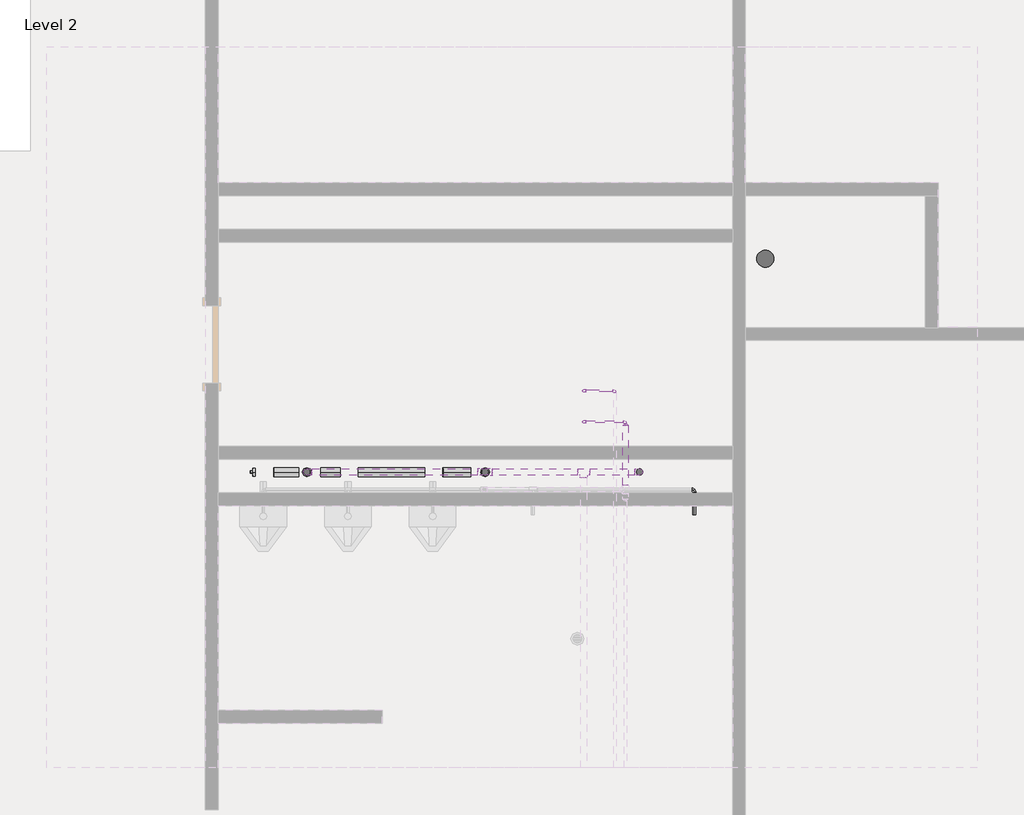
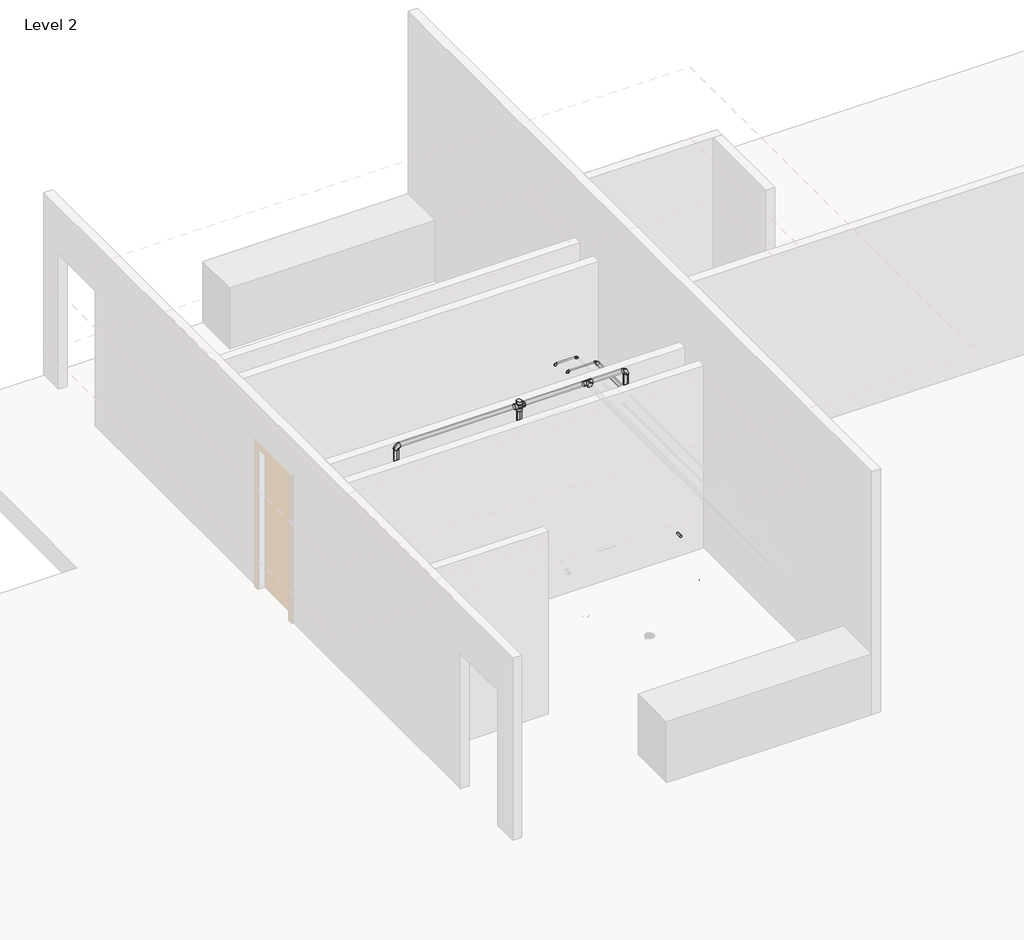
# One storey, part 5 of 5: 26 pipe segments, 19 pipe fittings.
"""IFC4 building model written with IfcOpenShell, lengths in millimetres."""

from ifc_helpers import new_model, si_unit, point, frame, frame_2d, origin, place, context, project, spatial, circle_curve, trimmed, segment, composite_curve, outline, extrude, transform, mapped, element, save
from ifc_brep_helpers import plane_surface, cylinder_surface, advanced_brep
from components import pipe_elbow_standard_a25a5501, pipe_elbow_standard_feaaf02c, pipe_glued_dwv_bend_standard_de9b6336, pipe_glued_dwv_bend_standard_2c861dc4, pipe_glued_pvc_cross_standard_87f1f047, pipe_pvc_bend_standard_a092cd9d, pipe_pvc_bend_standard_2534c646, pipe_pvc_bend_standard_a398539a, pipe_pvc_plug_standard_a2d36fc3, pipe_pvc_transition_eccentric_standard_585967aa, pipe_pvc_transition_eccentric_standard_5485b987, pipe_pvc_transition_eccentric_standard_66668254, pipe_pvc_transition_eccentric_standard_f30648cf, pipe_pvc_vent_tee_standard_361e4660, pipe_transition_eccentric_standard_2e591508

model = new_model("IFC4")

# Units and contexts
model_context = context("Model", 3, world=origin())
ifc_project = project(units=[si_unit("LENGTHUNIT", "METRE", prefix="MILLI")], contexts=[model_context])

# Site, building, storey
site = spatial("IfcSite", under=ifc_project)
building = spatial("IfcBuilding", under=site)
storey = spatial("IfcBuildingStorey", under=building, Name="Level 2", Elevation=3657.6)

# Pipe fittings
placement = place(None, origin())
pipe_elbow_standard_shape = pipe_elbow_standard_a25a5501(model_context)
element("IfcPipeFitting", 1, ObjectType="Pipe Elbow : Standard", at=placement, inside=storey, context=model_context, shape_type="MappedRepresentation", body=[
    mapped(pipe_elbow_standard_shape, transform((10036.227769, 7874.3862233, 4013.2), x_axis=(0.0, 1.0, 0.0), y_axis=(-1.0, 0.0, 0.0), z_axis=(0.0, 0.0, 1.0))),
])
pipe_elbow_standard_2_shape = pipe_elbow_standard_feaaf02c(model_context)
element("IfcPipeFitting", 2, ObjectType="Pipe Elbow : Standard", at=placement, inside=storey, context=model_context, shape_type="MappedRepresentation", body=[
    mapped(pipe_elbow_standard_2_shape, transform((8950.3157496, 8539.6099268, 6324.6), x_axis=(0.0, 0.0, 1.0), y_axis=(1.0, 0.0, 0.0), z_axis=(0.0, 1.0, 0.0))),
])
element("IfcPipeFitting", 3, ObjectType="Pipe Elbow : Standard", at=placement, inside=storey, context=model_context, shape_type="MappedRepresentation", body=[
    mapped(pipe_elbow_standard_2_shape, transform((9255.1157496, 8844.4099268, 6248.4), x_axis=(1.0, 0.0, 0.0), y_axis=(0.0, -1.0, 0.0), z_axis=(0.0, 0.0, -1.0))),
])
element("IfcPipeFitting", 4, ObjectType="Pipe Elbow : Standard", at=placement, inside=storey, context=model_context, shape_type="MappedRepresentation", body=[
    mapped(pipe_elbow_standard_2_shape, transform((8950.3157496, 8844.4099268, 6248.4), x_axis=(-1.0, 0.0, 0.0), y_axis=(0.0, 0.0, -1.0), z_axis=(0.0, -1.0, 0.0))),
])
element("IfcPipeFitting", 5, ObjectType="Pipe Elbow : Standard", at=placement, inside=storey, context=model_context, shape_type="MappedRepresentation", body=[
    mapped(pipe_elbow_standard_2_shape, transform((9358.8805711, 8539.6099268, 6324.6), x_axis=(0.0, 1.0, 0.0), y_axis=(-1.0, 0.0, 0.0), z_axis=(0.0, 0.0, 1.0))),
])
pipe_glued_dwv_bend_standard_shape = pipe_glued_dwv_bend_standard_de9b6336(model_context)
element("IfcPipeFitting", 6, ObjectType="Pipe Glued DWV Bend : Standard", at=placement, inside=storey, context=model_context, shape_type="MappedRepresentation", body=[
    mapped(pipe_glued_dwv_bend_standard_shape, transform((10732.5801632, 9758.3555835, 3279.5497723), x_axis=(0.0, 0.9999457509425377, -0.010416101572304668), y_axis=(0.0, -0.010416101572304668, -0.9999457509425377), z_axis=(-1.0, 0.0, 0.0))),
])
pipe_glued_dwv_bend_standard_2_shape = pipe_glued_dwv_bend_standard_2c861dc4(model_context)
element("IfcPipeFitting", 7, ObjectType="Pipe Glued DWV Bend : Standard", at=placement, inside=storey, context=model_context, shape_type="MappedRepresentation", body=[
    mapped(pipe_glued_dwv_bend_standard_2_shape, transform((7979.0844053, 8046.8850622, 3325.9810975), x_axis=(-0.9999440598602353, -1.7751450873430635e-05, 0.010577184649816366), y_axis=(0.01057718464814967, 1.8777087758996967e-07, 0.999944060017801), z_axis=(-1.7752443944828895e-05, 0.9999999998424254, 0.0))),
])
pipe_glued_pvc_cross_standard_shape = pipe_glued_pvc_cross_standard_87f1f047(model_context)
element("IfcPipeFitting", 8, ObjectType="Pipe Glued PVC Cross : Standard", at=placement, inside=storey, context=model_context, shape_type="MappedRepresentation", body=[
    mapped(pipe_glued_pvc_cross_standard_shape, transform((7979.0844053, 8046.8850622, 6451.6), x_axis=(0.0, 0.0, 1.0), y_axis=(1.0, 0.0, 0.0), z_axis=(0.0, 1.0, 0.0))),
])
pipe_pvc_bend_standard_shape = pipe_pvc_bend_standard_a092cd9d(model_context)
element("IfcPipeFitting", 9, ObjectType="Pipe PVC Bend : Standard", at=placement, inside=storey, context=model_context, shape_type="MappedRepresentation", body=[
    mapped(pipe_pvc_bend_standard_shape, transform((10017.1777742, 7187.059932, 3313.6539239), x_axis=(0.0, 0.0, -1.0), y_axis=(0.0, 1.0, 0.0), z_axis=(1.0, 0.0, 0.0))),
])
pipe_pvc_bend_standard_2_shape = pipe_pvc_bend_standard_2534c646(model_context)
element("IfcPipeFitting", 10, ObjectType="Pipe PVC Bend : Standard", at=placement, inside=storey, context=model_context, shape_type="MappedRepresentation", body=[
    mapped(pipe_pvc_bend_standard_2_shape, transform((6228.7865234, 8046.8850622, 6451.6), x_axis=(-0.0006499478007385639, 0.0, 0.9999997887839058), y_axis=(0.9999997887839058, 0.0, 0.0006499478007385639), z_axis=(0.0, 1.0, 0.0))),
])
pipe_pvc_bend_standard_3_shape = pipe_pvc_bend_standard_a398539a(model_context)
element("IfcPipeFitting", 11, ObjectType="Pipe PVC Bend : Standard", at=placement, inside=storey, context=model_context, shape_type="MappedRepresentation", body=[
    mapped(pipe_pvc_bend_standard_3_shape, transform((9496.6694611, 8047.4831103, 6451.6), x_axis=(-0.0006409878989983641, 0.0, 0.9999997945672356), y_axis=(-0.9999997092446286, -0.00041309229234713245, -0.0006409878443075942), z_axis=(0.00041309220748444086, -0.9999999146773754, 2.6478716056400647e-07))),
])
pipe_pvc_plug_standard_shape = pipe_pvc_plug_standard_a2d36fc3(model_context)
element("IfcPipeFitting", 12, ObjectType="Pipe PVC Plug : Standard", at=placement, inside=storey, context=model_context, shape_type="MappedRepresentation", body=[
    mapped(pipe_pvc_plug_standard_shape, transform((5696.9719248, 8046.8850622, 3982.4018472), x_axis=(-0.9999457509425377, 0.0, 0.010416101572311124), y_axis=(-0.01041554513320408, -0.01033630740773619, -0.9998923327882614), z_axis=(0.00010766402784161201, -0.999946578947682, 0.010335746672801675))),
])
pipe_pvc_transition_eccentric_standard_shape = pipe_pvc_transition_eccentric_standard_585967aa(model_context)
element("IfcPipeFitting", 13, ObjectType="Pipe PVC Transition Eccentric : Standard", at=placement, inside=storey, context=model_context, shape_type="MappedRepresentation", body=[
    mapped(pipe_pvc_transition_eccentric_standard_shape, transform((10017.1349849, 7869.4149962, 3306.5465044), x_axis=(0.00010848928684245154, -0.9999457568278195, 0.01041497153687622), y_axis=(0.010415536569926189, 0.010415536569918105, 0.999891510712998), z_axis=(-0.9999457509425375, 0.0, 0.010416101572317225))),
])
pipe_pvc_transition_eccentric_standard_2_shape = pipe_pvc_transition_eccentric_standard_5485b987(model_context)
element("IfcPipeFitting", 14, ObjectType="Pipe PVC Transition Eccentric : Standard", at=placement, inside=storey, context=model_context, shape_type="MappedRepresentation", body=[
    mapped(pipe_pvc_transition_eccentric_standard_2_shape, transform((8340.3989418, 8046.88718, 3322.2961226), x_axis=(-0.9999457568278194, 0.0001084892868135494, 0.010414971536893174), y_axis=(-0.00010849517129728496, -0.9999999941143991, 0.0), z_axis=(0.010414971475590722, -1.1299741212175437e-06, 0.9999457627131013))),
])
pipe_pvc_transition_eccentric_standard_3_shape = pipe_pvc_transition_eccentric_standard_66668254(model_context)
element("IfcPipeFitting", 15, ObjectType="Pipe PVC Transition Eccentric : Standard", at=placement, inside=storey, context=model_context, shape_type="MappedRepresentation", body=[
    mapped(pipe_pvc_transition_eccentric_standard_3_shape, transform((7979.0844053, 8046.8850622, 4040.088436), x_axis=(0.0, 0.0, 1.0), y_axis=(0.0, 1.0, 0.0), z_axis=(-1.0, 0.0, 0.0))),
])
element("IfcPipeFitting", 16, ObjectType="Pipe PVC Transition Eccentric : Standard", at=placement, inside=storey, context=model_context, shape_type="MappedRepresentation", body=[
    mapped(pipe_pvc_transition_eccentric_standard_3_shape, transform((6228.8164648, 8046.8850622, 4115.9193809), x_axis=(0.0, 0.0, 1.0), y_axis=(1.0, 0.0, 0.0), z_axis=(0.0, 1.0, 0.0))),
])
pipe_pvc_transition_eccentric_standard_4_shape = pipe_pvc_transition_eccentric_standard_f30648cf(model_context)
element("IfcPipeFitting", 17, ObjectType="Pipe PVC Transition Eccentric : Standard", at=placement, inside=storey, context=model_context, shape_type="MappedRepresentation", body=[
    mapped(pipe_pvc_transition_eccentric_standard_4_shape, transform((9498.4873347, 8046.887869, 3487.5925371), x_axis=(0.0, 0.0, 1.0), y_axis=(1.0, 0.0, 0.0), z_axis=(0.0, 1.0, 0.0))),
])
pipe_pvc_vent_tee_standard_shape = pipe_pvc_vent_tee_standard_361e4660(model_context)
element("IfcPipeFitting", 18, ObjectType="Pipe PVC Vent Tee : Standard", at=placement, inside=storey, context=model_context, shape_type="MappedRepresentation", body=[
    mapped(pipe_pvc_vent_tee_standard_shape, transform((8950.2947657, 8047.2574071, 6451.6), x_axis=(0.9999999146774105, 0.00041309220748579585, 0.0), y_axis=(-0.0004130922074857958, 0.9999999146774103, 0.0), z_axis=(0.0, 0.0, 0.9999999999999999))),
])
pipe_transition_eccentric_standard_shape = pipe_transition_eccentric_standard_2e591508(model_context)
element("IfcPipeFitting", 19, ObjectType="Pipe Transition Eccentric : Standard", at=placement, inside=storey, context=model_context, shape_type="MappedRepresentation", body=[
    mapped(pipe_transition_eccentric_standard_shape, transform((9358.8805711, 8505.4786768, 6324.6), x_axis=(0.0, 1.0, 0.0), y_axis=(-1.0, 0.0, 0.0), z_axis=(0.0, 0.0, 1.0))),
])

# Pipe segments
element("IfcPipeSegment", 20, ObjectType="Cold Water", at=placement, inside=storey, context=model_context, shape_type="SweptSolid", body=[
    extrude(outline(composite_curve([segment(trimmed(circle_curve(frame_2d((4013.2, 10036.227769)), 14.2875), [point((4013.2, 10050.515269))], [point((4027.4875, 10036.227769))], False, "CARTESIAN"), True, "CONTINUOUS"), segment(trimmed(circle_curve(frame_2d((4013.2, 10036.227769)), 14.2875), [point((4027.4875, 10036.227769))], [point((4013.2, 10021.940269))], False, "CARTESIAN"), True, "CONTINUOUS"), segment(trimmed(circle_curve(frame_2d((4013.2, 10036.227769)), 14.2875), [point((4013.2, 10021.940269))], [point((3998.9125, 10036.227769))], False, "CARTESIAN"), True, "CONTINUOUS"), segment(trimmed(circle_curve(frame_2d((4013.2, 10036.227769)), 14.2875), [point((3998.9125, 10036.227769))], [point((4013.2, 10050.515269))], False, "CARTESIAN"), True, "CONTINUOUS")], self_intersect=False)), frame((0.0, 7625.2099268, 0.0), z_axis=(0.0, 1.0, 0.0), x_axis=(0.0, 0.0, 1.0)), (0.0, 0.0, 1.0), 225.3637965),
])
element("IfcPipeSegment", 21, ObjectType="Cold Water", at=placement, inside=storey, context=model_context, shape_type="SweptSolid", body=[
    extrude(outline(composite_curve([segment(trimmed(circle_curve(frame_2d((8539.6099268, 6324.6)), 11.1125), [point((8528.4974268, 6324.6))], [point((8539.6099268, 6335.7125))], False, "CARTESIAN"), True, "CONTINUOUS"), segment(trimmed(circle_curve(frame_2d((8539.6099268, 6324.6)), 11.1125), [point((8539.6099268, 6335.7125))], [point((8550.7224268, 6324.6))], False, "CARTESIAN"), True, "CONTINUOUS"), segment(trimmed(circle_curve(frame_2d((8539.6099268, 6324.6)), 11.1125), [point((8550.7224268, 6324.6))], [point((8539.6099268, 6313.4875))], False, "CARTESIAN"), True, "CONTINUOUS"), segment(trimmed(circle_curve(frame_2d((8539.6099268, 6324.6)), 11.1125), [point((8539.6099268, 6313.4875))], [point((8528.4974268, 6324.6))], False, "CARTESIAN"), True, "CONTINUOUS")], self_intersect=False)), frame((8970.9532496, 0.0, 0.0), z_axis=(1.0, 0.0, 0.0), x_axis=(0.0, 1.0, 0.0)), (0.0, 0.0, 1.0), 367.2898215),
])
element("IfcPipeSegment", 22, ObjectType="Cold Water", at=placement, inside=storey, context=model_context, shape_type="SweptSolid", body=[
    extrude(outline(composite_curve([segment(trimmed(circle_curve(frame_2d((6324.6, 9358.8805711)), 26.9875), [point((6324.6, 9385.8680711))], [point((6351.5875, 9358.8805711))], False, "CARTESIAN"), True, "CONTINUOUS"), segment(trimmed(circle_curve(frame_2d((6324.6, 9358.8805711)), 26.9875), [point((6351.5875, 9358.8805711))], [point((6324.6, 9331.8930711))], False, "CARTESIAN"), True, "CONTINUOUS"), segment(trimmed(circle_curve(frame_2d((6324.6, 9358.8805711)), 26.9875), [point((6324.6, 9331.8930711))], [point((6297.6125, 9358.8805711))], False, "CARTESIAN"), True, "CONTINUOUS"), segment(trimmed(circle_curve(frame_2d((6324.6, 9358.8805711)), 26.9875), [point((6297.6125, 9358.8805711))], [point((6324.6, 9385.8680711))], False, "CARTESIAN"), True, "CONTINUOUS")], self_intersect=False)), frame((0.0, 7917.2487233, 0.0), z_axis=(0.0, 1.0, 0.0), x_axis=(0.0, 0.0, 1.0)), (0.0, 0.0, 1.0), 588.2299535),
])
element("IfcPipeSegment", 23, ObjectType="Hot Water", at=placement, inside=storey, context=model_context, shape_type="SweptSolid", body=[
    extrude(outline(composite_curve([segment(trimmed(circle_curve(frame_2d((8844.4099268, 6248.4)), 11.1125), [point((8833.2974268, 6248.4))], [point((8844.4099268, 6259.5125))], False, "CARTESIAN"), True, "CONTINUOUS"), segment(trimmed(circle_curve(frame_2d((8844.4099268, 6248.4)), 11.1125), [point((8844.4099268, 6259.5125))], [point((8855.5224268, 6248.4))], False, "CARTESIAN"), True, "CONTINUOUS"), segment(trimmed(circle_curve(frame_2d((8844.4099268, 6248.4)), 11.1125), [point((8855.5224268, 6248.4))], [point((8844.4099268, 6237.2875))], False, "CARTESIAN"), True, "CONTINUOUS"), segment(trimmed(circle_curve(frame_2d((8844.4099268, 6248.4)), 11.1125), [point((8844.4099268, 6237.2875))], [point((8833.2974268, 6248.4))], False, "CARTESIAN"), True, "CONTINUOUS")], self_intersect=False)), frame((8970.9532496, 0.0, 0.0), z_axis=(1.0, 0.0, 0.0), x_axis=(0.0, 1.0, 0.0)), (0.0, 0.0, 1.0), 263.525),
])
element("IfcPipeSegment", 24, ObjectType="PVC Sanitary", at=placement, inside=storey, context=model_context, shape_type="SweptSolid", body=[
    extrude(outline(composite_curve([segment(trimmed(circle_curve(frame_2d((10732.5801632, 10142.2824431)), 84.1375), [point((10816.7176632, 10142.2824431))], [point((10732.5801632, 10058.1449431))], False, "CARTESIAN"), True, "CONTINUOUS"), segment(trimmed(circle_curve(frame_2d((10732.5801632, 10142.2824431)), 84.1375), [point((10732.5801632, 10058.1449431))], [point((10648.4426632, 10142.2824431))], False, "CARTESIAN"), True, "CONTINUOUS"), segment(trimmed(circle_curve(frame_2d((10732.5801632, 10142.2824431)), 84.1375), [point((10648.4426632, 10142.2824431))], [point((10732.5801632, 10226.4199431))], False, "CARTESIAN"), True, "CONTINUOUS"), segment(trimmed(circle_curve(frame_2d((10732.5801632, 10142.2824431)), 84.1375), [point((10732.5801632, 10226.4199431))], [point((10816.7176632, 10142.2824431))], False, "CARTESIAN"), True, "CONTINUOUS")], self_intersect=False)), frame((0.0, 0.0, -457.1770873), z_axis=(0.0, 0.0, 1.0), x_axis=(1.0, 0.0, 0.0)), (0.0, 0.0, 1.0), 3251.2),
])
element("IfcPipeSegment", 25, ObjectType="PVC Sanitary", at=placement, inside=storey, context=model_context, shape_type="SweptSolid", body=[
    extrude(outline(composite_curve([segment(trimmed(circle_curve(frame_2d((0.0, 44.4500001)), 44.45), [point((-44.45, 44.4500001))], [point((0.0, 88.9))], False, "CARTESIAN"), True, "CONTINUOUS"), segment(trimmed(circle_curve(frame_2d((0.0, 44.4500001)), 44.45), [point((0.0, 88.9))], [point((44.45, 44.4500001))], False, "CARTESIAN"), True, "CONTINUOUS"), segment(trimmed(circle_curve(frame_2d((0.0, 44.4500001)), 44.45), [point((44.45, 44.4500001))], [point((0.0, 0.0))], False, "CARTESIAN"), True, "CONTINUOUS"), segment(trimmed(circle_curve(frame_2d((0.0, 44.4500001)), 44.45), [point((0.0, 0.0))], [point((-44.45, 44.4500001))], False, "CARTESIAN"), True, "CONTINUOUS")], self_intersect=False)), frame((10017.1216718, 7814.1862214, 3262.6695313), z_axis=(0.0, -0.9999457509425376, 0.010416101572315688), x_axis=(1.0, 0.0, 0.0)), (0.0, 0.0, 1.0), 567.9234396),
])
element("IfcPipeSegment", 26, ObjectType="PVC Sanitary", at=placement, inside=storey, context=model_context, shape_type="SweptSolid", body=[
    extrude(outline(composite_curve([segment(trimmed(circle_curve(frame_2d((0.0, -44.45)), 44.45), [point((-44.45, -44.45))], [point((0.0, 0.0))], False, "CARTESIAN"), True, "CONTINUOUS"), segment(trimmed(circle_curve(frame_2d((0.0, -44.45)), 44.45), [point((0.0, 0.0))], [point((44.45, -44.45))], False, "CARTESIAN"), True, "CONTINUOUS"), segment(trimmed(circle_curve(frame_2d((0.0, -44.45)), 44.45), [point((44.45, -44.45))], [point((0.0, -88.9))], False, "CARTESIAN"), True, "CONTINUOUS"), segment(trimmed(circle_curve(frame_2d((0.0, -44.45)), 44.45), [point((0.0, -88.9))], [point((-44.45, -44.45))], False, "CARTESIAN"), True, "CONTINUOUS")], self_intersect=False)), frame((10017.1777742, 7142.609932, 3373.3538105), z_axis=(-1.835869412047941e-08, -1.835862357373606e-08, 0.9999999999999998), x_axis=(-0.9999999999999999, 0.0, -1.8358694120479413e-08)), (0.0, 0.0, 1.0), 284.2461887),
])
element("IfcPipeSegment", 27, ObjectType="PVC Sanitary", at=placement, inside=storey, context=model_context, shape_type="SweptSolid", body=[
    extrude(outline(composite_curve([segment(trimmed(circle_curve(frame_2d((0.0, -57.15)), 57.15), [point((0.0, -114.3))], [point((-57.1499999, -57.15))], False, "CARTESIAN"), True, "CONTINUOUS"), segment(trimmed(circle_curve(frame_2d((0.0, -57.15)), 57.15), [point((-57.1499999, -57.15))], [point((0.0, 0.0))], False, "CARTESIAN"), True, "CONTINUOUS"), segment(trimmed(circle_curve(frame_2d((0.0, -57.15)), 57.15), [point((0.0, 0.0))], [point((57.15, -57.15))], False, "CARTESIAN"), True, "CONTINUOUS"), segment(trimmed(circle_curve(frame_2d((0.0, -57.15)), 57.15), [point((57.15, -57.15))], [point((0.0, -114.3))], False, "CARTESIAN"), True, "CONTINUOUS")], self_intersect=False)), frame((10555.1072904, 8104.03718, 3299.2262439), z_axis=(-0.9999457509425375, 0.0, 0.010416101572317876), x_axis=(0.010416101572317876, 0.0, 0.9999457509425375)), (0.0, 0.0, 1.0), 360.5368695),
])
element("IfcPipeSegment", 28, ObjectType="PVC Sanitary", at=placement, inside=storey, context=model_context, shape_type="SweptSolid", body=[
    extrude(outline(composite_curve([segment(trimmed(circle_curve(frame_2d((0.0, 57.15)), 57.15), [point((0.0, 114.3))], [point((57.15, 57.15))], False, "CARTESIAN"), True, "CONTINUOUS"), segment(trimmed(circle_curve(frame_2d((0.0, 57.15)), 57.15), [point((57.15, 57.15))], [point((0.0, 0.0))], False, "CARTESIAN"), True, "CONTINUOUS"), segment(trimmed(circle_curve(frame_2d((0.0, 57.15)), 57.15), [point((0.0, 0.0))], [point((-57.15, 57.15))], False, "CARTESIAN"), True, "CONTINUOUS"), segment(trimmed(circle_curve(frame_2d((0.0, 57.15)), 57.15), [point((-57.15, 57.15))], [point((0.0, 114.3))], False, "CARTESIAN"), True, "CONTINUOUS")], self_intersect=False)), frame((8797.5989366, 7989.73718, 3317.5336226), z_axis=(-0.9999457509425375, 0.0, 0.010416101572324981), x_axis=(0.010416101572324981, 0.0, 0.9999457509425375)), (0.0, 0.0, 1.0), 190.524804),
])
element("IfcPipeSegment", 29, ObjectType="PVC Sanitary", at=placement, inside=storey, context=model_context, shape_type="SweptSolid", body=[
    extrude(outline(composite_curve([segment(trimmed(circle_curve(frame_2d((0.0, 44.4500001)), 44.45), [point((-0.2061639, 88.8995219))], [point((44.4495218, 44.6561639))], False, "CARTESIAN"), True, "CONTINUOUS"), segment(trimmed(circle_curve(frame_2d((0.0, 44.4500001)), 44.45), [point((44.4495218, 44.6561639))], [point((0.2061638, 0.0004781))], False, "CARTESIAN"), True, "CONTINUOUS"), segment(trimmed(circle_curve(frame_2d((0.0, 44.4500001)), 44.45), [point((0.2061638, 0.0004781))], [point((-44.4495219, 44.2438361))], False, "CARTESIAN"), True, "CONTINUOUS"), segment(trimmed(circle_curve(frame_2d((0.0, 44.4500001)), 44.45), [point((-44.4495219, 44.2438361))], [point((-0.2061639, 88.8995219))], False, "CARTESIAN"), True, "CONTINUOUS")], self_intersect=False)), frame((8285.6331627, 8002.4435999, 3322.6603853), z_axis=(-0.9999436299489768, -4.924355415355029e-05, 0.010617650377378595), x_axis=(0.010617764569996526, -0.004637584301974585, 0.9999328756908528)), (0.0, 0.0, 1.0), 105.0015081),
])
element("IfcPipeSegment", 30, ObjectType="PVC Sanitary", at=placement, inside=storey, context=model_context, shape_type="SweptSolid", body=[
    extrude(outline(composite_curve([segment(trimmed(circle_curve(frame_2d((0.0, 57.15)), 57.15), [point((0.0, 114.3))], [point((57.15, 57.15))], False, "CARTESIAN"), True, "CONTINUOUS"), segment(trimmed(circle_curve(frame_2d((0.0, 57.15)), 57.15), [point((57.15, 57.15))], [point((0.0, 0.0))], False, "CARTESIAN"), True, "CONTINUOUS"), segment(trimmed(circle_curve(frame_2d((0.0, 57.15)), 57.15), [point((0.0, 0.0))], [point((-57.1499999, 57.15))], False, "CARTESIAN"), True, "CONTINUOUS"), segment(trimmed(circle_curve(frame_2d((0.0, 57.15)), 57.15), [point((-57.1499999, 57.15))], [point((0.0, 114.3))], False, "CARTESIAN"), True, "CONTINUOUS")], self_intersect=False)), frame((9407.4273768, 7989.73718, 3311.181243), z_axis=(-0.9999457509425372, 0.0, 0.010416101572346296), x_axis=(0.010416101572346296, 0.0, 0.9999457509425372)), (0.0, 0.0, 1.0), 343.1615246),
])
element("IfcPipeSegment", 31, ObjectType="PVC Sanitary", at=placement, inside=storey, context=model_context, shape_type="SweptSolid", body=[
    extrude(outline(composite_curve([segment(trimmed(circle_curve(frame_2d((0.0, -57.15)), 57.15), [point((57.15, -57.15))], [point((0.0, -114.3000001))], False, "CARTESIAN"), True, "CONTINUOUS"), segment(trimmed(circle_curve(frame_2d((0.0, -57.15)), 57.15), [point((0.0, -114.3000001))], [point((-57.15, -57.15))], False, "CARTESIAN"), True, "CONTINUOUS"), segment(trimmed(circle_curve(frame_2d((0.0, -57.15)), 57.15), [point((-57.15, -57.15))], [point((0.0, 0.0))], False, "CARTESIAN"), True, "CONTINUOUS"), segment(trimmed(circle_curve(frame_2d((0.0, -57.15)), 57.15), [point((0.0, 0.0))], [point((57.15, -57.15))], False, "CARTESIAN"), True, "CONTINUOUS")], self_intersect=False)), frame((10732.5801632, 9623.0563456, 3338.1122399), z_axis=(0.0, -0.9999457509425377, 0.010416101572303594), x_axis=(1.0, 0.0, 0.0)), (0.0, 0.0, 1.0), 1398.1961194),
])
element("IfcPipeSegment", 32, ObjectType="PVC Sanitary", at=placement, inside=storey, context=model_context, shape_type="SweptSolid", body=[
    extrude(outline(composite_curve([segment(trimmed(circle_curve(frame_2d((0.0, -57.15)), 57.15), [point((57.15, -57.15))], [point((0.0, -114.3))], False, "CARTESIAN"), True, "CONTINUOUS"), segment(trimmed(circle_curve(frame_2d((0.0, -57.15)), 57.15), [point((0.0, -114.3))], [point((-57.15, -57.15))], False, "CARTESIAN"), True, "CONTINUOUS"), segment(trimmed(circle_curve(frame_2d((0.0, -57.15)), 57.15), [point((-57.15, -57.15))], [point((0.0, 0.0))], False, "CARTESIAN"), True, "CONTINUOUS"), segment(trimmed(circle_curve(frame_2d((0.0, -57.15)), 57.15), [point((0.0, 0.0))], [point((57.15, -57.15))], False, "CARTESIAN"), True, "CONTINUOUS")], self_intersect=False)), frame((10732.5801632, 10008.7011333, 3110.0265276), z_axis=(0.0, -0.7071067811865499, 0.7071067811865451), x_axis=(1.0, 0.0, 0.0)), (0.0, 0.0, 1.0), 160.9901811),
])
element("IfcPipeSegment", 33, ObjectType="PVC Sanitary", at=placement, inside=storey, context=model_context, shape_type="SweptSolid", body=[
    extrude(outline(composite_curve([segment(trimmed(circle_curve(frame_2d((10732.5801632, 10142.2824431)), 84.1375), [point((10648.4426632, 10142.2824431))], [point((10732.5801632, 10226.4199431))], False, "CARTESIAN"), True, "CONTINUOUS"), segment(trimmed(circle_curve(frame_2d((10732.5801632, 10142.2824431)), 84.1375), [point((10732.5801632, 10226.4199431))], [point((10816.7176632, 10142.2824431))], False, "CARTESIAN"), True, "CONTINUOUS"), segment(trimmed(circle_curve(frame_2d((10732.5801632, 10142.2824431)), 84.1375), [point((10816.7176632, 10142.2824431))], [point((10732.5801632, 10058.1449431))], False, "CARTESIAN"), True, "CONTINUOUS"), segment(trimmed(circle_curve(frame_2d((10732.5801632, 10142.2824431)), 84.1375), [point((10732.5801632, 10058.1449431))], [point((10648.4426632, 10142.2824431))], False, "CARTESIAN"), True, "CONTINUOUS")], self_intersect=False)), frame((0.0, 0.0, 3175.0229127), z_axis=(0.0, 0.0, 1.0), x_axis=(1.0, 0.0, 0.0)), (0.0, 0.0, 1.0), 1701.7770873),
])
element("IfcPipeSegment", 34, ObjectType="PVC Sanitary", at=placement, inside=storey, context=model_context, shape_type="SweptSolid", body=[
    extrude(outline(composite_curve([segment(trimmed(circle_curve(frame_2d((0.0, -44.45)), 44.45), [point((0.0, -88.9))], [point((-44.45, -44.45))], False, "CARTESIAN"), True, "CONTINUOUS"), segment(trimmed(circle_curve(frame_2d((0.0, -44.45)), 44.45), [point((-44.45, -44.45))], [point((0.0, 0.0))], False, "CARTESIAN"), True, "CONTINUOUS"), segment(trimmed(circle_curve(frame_2d((0.0, -44.45)), 44.45), [point((0.0, 0.0))], [point((44.4500001, -44.45))], False, "CARTESIAN"), True, "CONTINUOUS"), segment(trimmed(circle_curve(frame_2d((0.0, -44.45)), 44.45), [point((44.4500001, -44.45))], [point((0.0, -88.9))], False, "CARTESIAN"), True, "CONTINUOUS")], self_intersect=False)), frame((6554.7441082, 8091.3350622, 3973.4667203), z_axis=(-0.9999465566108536, 0.0, 0.010338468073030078), x_axis=(0.010338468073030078, 0.0, 0.9999465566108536)), (0.0, 0.0, 1.0), 188.2957485),
])
element("IfcPipeSegment", 35, ObjectType="PVC Sanitary", at=placement, inside=storey, context=model_context, shape_type="SweptSolid", body=[
    extrude(outline(composite_curve([segment(trimmed(circle_curve(frame_2d((7979.0844053, 8046.8850622)), 44.45), [point((7934.6344053, 8046.8850622))], [point((7979.0844053, 8091.3350622))], False, "CARTESIAN"), True, "CONTINUOUS"), segment(trimmed(circle_curve(frame_2d((7979.0844053, 8046.8850622)), 44.45), [point((7979.0844053, 8091.3350622))], [point((8023.5344053, 8046.8850622))], False, "CARTESIAN"), True, "CONTINUOUS"), segment(trimmed(circle_curve(frame_2d((7979.0844053, 8046.8850622)), 44.45), [point((8023.5344053, 8046.8850622))], [point((7979.0844053, 8002.4350622))], False, "CARTESIAN"), True, "CONTINUOUS"), segment(trimmed(circle_curve(frame_2d((7979.0844053, 8046.8850622)), 44.45), [point((7979.0844053, 8002.4350622))], [point((7934.6344053, 8046.8850622))], False, "CARTESIAN"), True, "CONTINUOUS")], self_intersect=False)), frame((0.0, 0.0, 3527.5441633), z_axis=(0.0, 0.0, 1.0), x_axis=(1.0, 0.0, 0.0)), (0.0, 0.0, 1.0), 293.4692727),
])
element("IfcPipeSegment", 36, ObjectType="PVC Sanitary", at=placement, inside=storey, context=model_context, shape_type="SweptSolid", body=[
    extrude(outline(composite_curve([segment(trimmed(circle_curve(frame_2d((0.0, 44.45)), 44.45), [point((0.0, 88.9))], [point((44.45, 44.45))], False, "CARTESIAN"), True, "CONTINUOUS"), segment(trimmed(circle_curve(frame_2d((0.0, 44.45)), 44.45), [point((44.45, 44.45))], [point((0.0, 0.0))], False, "CARTESIAN"), True, "CONTINUOUS"), segment(trimmed(circle_curve(frame_2d((0.0, 44.45)), 44.45), [point((0.0, 0.0))], [point((-44.4500001, 44.45))], False, "CARTESIAN"), True, "CONTINUOUS"), segment(trimmed(circle_curve(frame_2d((0.0, 44.45)), 44.45), [point((-44.4500001, 44.45))], [point((0.0, 88.9))], False, "CARTESIAN"), True, "CONTINUOUS")], self_intersect=False)), frame((7386.594108, 8002.4350622, 3964.8016162), z_axis=(-0.9999457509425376, 0.0, 0.010416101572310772), x_axis=(0.010416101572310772, 0.0, 0.9999457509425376)), (0.0, 0.0, 1.0), 652.3171293),
])
element("IfcPipeSegment", 37, ObjectType="PVC Sanitary", at=placement, inside=storey, context=model_context, shape_type="SweptSolid", body=[
    extrude(outline(composite_curve([segment(trimmed(circle_curve(frame_2d((0.0, 44.45)), 44.45), [point((0.0, 88.9))], [point((44.45, 44.45))], False, "CARTESIAN"), True, "CONTINUOUS"), segment(trimmed(circle_curve(frame_2d((0.0, 44.45)), 44.45), [point((44.45, 44.45))], [point((0.0, 0.0))], False, "CARTESIAN"), True, "CONTINUOUS"), segment(trimmed(circle_curve(frame_2d((0.0, 44.45)), 44.45), [point((0.0, 0.0))], [point((-44.45, 44.45))], False, "CARTESIAN"), True, "CONTINUOUS"), segment(trimmed(circle_curve(frame_2d((0.0, 44.45)), 44.45), [point((-44.45, 44.45))], [point((0.0, 88.9))], False, "CARTESIAN"), True, "CONTINUOUS")], self_intersect=False)), frame((7840.0194053, 8002.4350622, 3960.078436), z_axis=(-0.9999457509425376, 0.0, 0.010416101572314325), x_axis=(0.010416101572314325, 0.0, 0.9999457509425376)), (0.0, 0.0, 1.0), 273.8718965),
])
element("IfcPipeSegment", 38, ObjectType="PVC Sanitary", at=placement, inside=storey, context=model_context, shape_type="SweptSolid", body=[
    extrude(outline(composite_curve([segment(trimmed(circle_curve(frame_2d((0.0, 57.15)), 57.15), [point((0.0, 114.3))], [point((57.1499999, 57.15))], False, "CARTESIAN"), True, "CONTINUOUS"), segment(trimmed(circle_curve(frame_2d((0.0, 57.15)), 57.15), [point((57.1499999, 57.15))], [point((0.0, 0.0))], False, "CARTESIAN"), True, "CONTINUOUS"), segment(trimmed(circle_curve(frame_2d((0.0, 57.15)), 57.15), [point((0.0, 0.0))], [point((-57.15, 57.15))], False, "CARTESIAN"), True, "CONTINUOUS"), segment(trimmed(circle_curve(frame_2d((0.0, 57.15)), 57.15), [point((-57.15, 57.15))], [point((0.0, 114.3))], False, "CARTESIAN"), True, "CONTINUOUS")], self_intersect=False)), frame((9927.9044479, 7989.73718, 3305.7596069), z_axis=(-0.9999457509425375, 0.0, 0.010416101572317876), x_axis=(0.010416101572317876, 0.0, 0.9999457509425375)), (0.0, 0.0, 1.0), 253.805308),
])
element("IfcPipeSegment", 39, ObjectType="PVC Sanitary", at=placement, inside=storey, context=model_context, shape_type="SweptSolid", body=[
    extrude(outline(composite_curve([segment(trimmed(circle_curve(frame_2d((0.0, 44.45)), 44.45), [point((0.0, 88.9))], [point((44.4499999, 44.45))], False, "CARTESIAN"), True, "CONTINUOUS"), segment(trimmed(circle_curve(frame_2d((0.0, 44.45)), 44.45), [point((44.4499999, 44.45))], [point((0.0, 0.0))], False, "CARTESIAN"), True, "CONTINUOUS"), segment(trimmed(circle_curve(frame_2d((0.0, 44.45)), 44.45), [point((0.0, 0.0))], [point((-44.45, 44.45))], False, "CARTESIAN"), True, "CONTINUOUS"), segment(trimmed(circle_curve(frame_2d((0.0, 44.45)), 44.45), [point((-44.45, 44.45))], [point((0.0, 88.9))], False, "CARTESIAN"), True, "CONTINUOUS")], self_intersect=False)), frame((6147.3953075, 8002.4350622, 3977.6953174), z_axis=(-0.9999451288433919, 0.0, 0.01047565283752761), x_axis=(0.01047565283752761, 0.0, 0.9999451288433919)), (0.0, 0.0, 1.0), 245.4699718),
])
element("IfcPipeSegment", 40, ObjectType="PVC Sanitary Vent", at=placement, inside=storey, context=model_context, shape_type="SweptSolid", body=[
    extrude(outline(composite_curve([segment(trimmed(circle_curve(frame_2d((7979.0844053, 8046.8850622)), 30.1625), [point((7948.9219053, 8046.8850622))], [point((7979.0844053, 8077.0475622))], False, "CARTESIAN"), True, "CONTINUOUS"), segment(trimmed(circle_curve(frame_2d((7979.0844053, 8046.8850622)), 30.1625), [point((7979.0844053, 8077.0475622))], [point((8009.2469053, 8046.8850622))], False, "CARTESIAN"), True, "CONTINUOUS"), segment(trimmed(circle_curve(frame_2d((7979.0844053, 8046.8850622)), 30.1625), [point((8009.2469053, 8046.8850622))], [point((7979.0844053, 8016.7225622))], False, "CARTESIAN"), True, "CONTINUOUS"), segment(trimmed(circle_curve(frame_2d((7979.0844053, 8046.8850622)), 30.1625), [point((7979.0844053, 8016.7225622))], [point((7948.9219053, 8046.8850622))], False, "CARTESIAN"), True, "CONTINUOUS")], self_intersect=False)), frame((0.0, 0.0, 4094.857186), z_axis=(0.0, 0.0, 1.0), x_axis=(1.0, 0.0, 0.0)), (0.0, 0.0, 1.0), 2286.892814),
])
element("IfcPipeSegment", 41, ObjectType="PVC Sanitary Vent", at=placement, inside=storey, context=model_context, shape_type="AdvancedBrep", body=[
    advanced_brep(
    [(9468.3717545, 8047.4831169, 3542.3419533), (9498.5342483, 8077.6456169, 3542.3612872), (9528.6967421, 8047.4831169, 3542.3806209), (9498.5342483, 8017.3206169, 3542.3612871), (9466.5364578, 8047.4831103, 6405.5726757), (9496.6989516, 8017.3206103, 6405.5920094), (9526.8614454, 8047.4831103, 6405.6113433), (9496.6989516, 8077.6456103, 6405.5920095)],
    [
        (0, 1, circle_curve(frame((9498.5342483, 8047.4831169, 3542.3612871), z_axis=(0.0006409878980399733, 0.0, -0.9999997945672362), x_axis=(-0.9999997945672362, 0.0, -0.0006409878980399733)), 30.1625)),
        (1, 2, circle_curve(frame((9498.5342483, 8047.4831169, 3542.3612872), z_axis=(0.0006409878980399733, 0.0, -0.9999997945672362), x_axis=(-0.9999997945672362, 0.0, -0.0006409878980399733)), 30.1625)),
        (2, 3, circle_curve(frame((9498.5342483, 8047.4831169, 3542.3612871), z_axis=(0.0006409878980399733, 0.0, -0.9999997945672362), x_axis=(-0.9999997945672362, 0.0, -0.0006409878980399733)), 30.1625)),
        (3, 0, circle_curve(frame((9498.5342483, 8047.4831169, 3542.3612871), z_axis=(0.0006409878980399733, 0.0, -0.9999997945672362), x_axis=(-0.9999997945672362, 0.0, -0.0006409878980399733)), 30.1625)),
        (4, 5, circle_curve(frame((9496.6989516, 8047.4831169, 6405.5920095), z_axis=(-0.0006409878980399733, 0.0, 0.9999997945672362), x_axis=(-0.9999997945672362, 0.0, -0.0006409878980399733)), 30.1625)),
        (5, 6, circle_curve(frame((9496.6989516, 8047.4831169, 6405.5920094), z_axis=(-0.0006409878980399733, 0.0, 0.9999997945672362), x_axis=(-0.9999997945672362, 0.0, -0.0006409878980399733)), 30.1625067)),
        (6, 7, circle_curve(frame((9496.6989516, 8047.4831169, 6405.5920095), z_axis=(-0.0006409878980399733, 0.0, 0.9999997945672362), x_axis=(-0.9999997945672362, 0.0, -0.0006409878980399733)), 30.1625)),
        (7, 4, circle_curve(frame((9496.6989516, 8047.4831169, 6405.5920095), z_axis=(-0.0006409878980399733, 0.0, 0.9999997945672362), x_axis=(-0.9999997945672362, 0.0, -0.0006409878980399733)), 30.1624933)),
        (0, 4),
        (7, 1),
        (6, 2),
        (5, 3),
    ],
    [
        plane_surface(frame((9498.5342483, 8017.3206169, 3542.3612871), z_axis=(0.000640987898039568, 2.3244794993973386e-09, -0.9999997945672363), x_axis=(0.9999997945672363, -1.4885870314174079e-12, 0.000640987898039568))),
        plane_surface(frame((9496.6989516, 8017.3206103, 6405.5920094), z_axis=(-0.0006409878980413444, -2.32447052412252e-09, 0.9999997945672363), x_axis=(0.9999997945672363, -1.4885870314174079e-12, 0.0006409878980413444))),
        cylinder_surface(frame((9498.5342483, 8047.4831169, 3542.3612871), z_axis=(0.0006409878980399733, 0.0, -0.9999997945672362), x_axis=(-0.9999997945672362, 0.0, -0.0006409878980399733)), 30.1625),
    ],
    [
        (0, [[1, 2, 3, 4]]),
        (1, [[5, 6, 7, 8]]),
        (2, [[-1, 9, -8, 10]]),
        (2, [[-2, -10, -7, 11]]),
        (2, [[-3, -11, -6, 12]]),
        (2, [[-4, -12, -5, -9]]),
    ],
),
])
element("IfcPipeSegment", 42, ObjectType="PVC Sanitary Vent", at=placement, inside=storey, context=model_context, shape_type="SweptSolid", body=[
    extrude(outline(composite_curve([segment(trimmed(circle_curve(frame_2d((6228.8164648, 8046.8850622)), 30.1625), [point((6198.6539648, 8046.8850622))], [point((6228.8164648, 8077.0475622))], False, "CARTESIAN"), True, "CONTINUOUS"), segment(trimmed(circle_curve(frame_2d((6228.8164648, 8046.8850622)), 30.1625), [point((6228.8164648, 8077.0475622))], [point((6258.9789648, 8046.8850622))], False, "CARTESIAN"), True, "CONTINUOUS"), segment(trimmed(circle_curve(frame_2d((6228.8164648, 8046.8850622)), 30.1625), [point((6258.9789648, 8046.8850622))], [point((6228.8164648, 8016.7225622))], False, "CARTESIAN"), True, "CONTINUOUS"), segment(trimmed(circle_curve(frame_2d((6228.8164648, 8046.8850622)), 30.1625), [point((6228.8164648, 8016.7225622))], [point((6198.6539648, 8046.8850622))], False, "CARTESIAN"), True, "CONTINUOUS")], self_intersect=False)), frame((0.0, 0.0, 4170.6881309), z_axis=(0.0, 0.0, 1.0), x_axis=(1.0, 0.0, 0.0)), (0.0, 0.0, 1.0), 2234.8444471),
])
element("IfcPipeSegment", 43, ObjectType="PVC Sanitary Vent", at=placement, inside=storey, context=model_context, shape_type="SweptSolid", body=[
    extrude(outline(composite_curve([segment(trimmed(circle_curve(frame_2d((8046.8850622, 6451.6)), 30.1625), [point((8077.0475622, 6451.6))], [point((8046.8850622, 6421.4375))], False, "CARTESIAN"), True, "CONTINUOUS"), segment(trimmed(circle_curve(frame_2d((8046.8850622, 6451.6)), 30.1625), [point((8046.8850622, 6421.4375))], [point((8016.7225622, 6451.6))], False, "CARTESIAN"), True, "CONTINUOUS"), segment(trimmed(circle_curve(frame_2d((8046.8850622, 6451.6)), 30.1625), [point((8016.7225622, 6451.6))], [point((8046.8850622, 6481.7625))], False, "CARTESIAN"), True, "CONTINUOUS"), segment(trimmed(circle_curve(frame_2d((8046.8850622, 6451.6)), 30.1625), [point((8046.8850622, 6481.7625))], [point((8077.0475622, 6451.6))], False, "CARTESIAN"), True, "CONTINUOUS")], self_intersect=False)), frame((6274.8539551, 0.0, 0.0), z_axis=(1.0, 0.0, 0.0), x_axis=(0.0, 1.0, 0.0)), (0.0, 0.0, 1.0), 1634.3804501),
])
element("IfcPipeSegment", 44, ObjectType="PVC Sanitary Vent", at=placement, inside=storey, context=model_context, shape_type="SweptSolid", body=[
    extrude(outline(composite_curve([segment(trimmed(circle_curve(frame_2d((0.0, -30.1625)), 30.1625), [point((-30.1625, -30.1625))], [point((0.0, 0.0))], False, "CARTESIAN"), True, "CONTINUOUS"), segment(trimmed(circle_curve(frame_2d((0.0, -30.1625)), 30.1625), [point((0.0, 0.0))], [point((30.1625001, -30.1625))], False, "CARTESIAN"), True, "CONTINUOUS"), segment(trimmed(circle_curve(frame_2d((0.0, -30.1625)), 30.1625), [point((30.1625001, -30.1625))], [point((0.0, -60.325))], False, "CARTESIAN"), True, "CONTINUOUS"), segment(trimmed(circle_curve(frame_2d((0.0, -30.1625)), 30.1625), [point((0.0, -60.325))], [point((-30.1625, -30.1625))], False, "CARTESIAN"), True, "CONTINUOUS")], self_intersect=False)), frame((8048.9344053, 8046.8850622, 6421.4375), z_axis=(0.9999999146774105, 0.00041309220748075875, 0.0), x_axis=(0.00041309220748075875, -0.9999999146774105, 0.0)), (0.0, 0.0, 1.0), 842.6229373),
])
element("IfcPipeSegment", 45, ObjectType="PVC Sanitary Vent", at=placement, inside=storey, context=model_context, shape_type="SweptSolid", body=[
    extrude(outline(composite_curve([segment(trimmed(circle_curve(frame_2d((0.0, -30.1625)), 30.1625), [point((-30.1625001, -30.1625))], [point((0.0, 0.0))], False, "CARTESIAN"), True, "CONTINUOUS"), segment(trimmed(circle_curve(frame_2d((0.0, -30.1625)), 30.1625), [point((0.0, 0.0))], [point((30.1625, -30.1625))], False, "CARTESIAN"), True, "CONTINUOUS"), segment(trimmed(circle_curve(frame_2d((0.0, -30.1625)), 30.1625), [point((30.1625, -30.1625))], [point((0.0, -60.325))], False, "CARTESIAN"), True, "CONTINUOUS"), segment(trimmed(circle_curve(frame_2d((0.0, -30.1625)), 30.1625), [point((0.0, -60.325))], [point((-30.1625001, -30.1625))], False, "CARTESIAN"), True, "CONTINUOUS")], self_intersect=False)), frame((9009.0322607, 8047.2816711, 6421.4375), z_axis=(0.9999999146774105, 0.00041309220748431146, 0.0), x_axis=(0.00041309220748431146, -0.9999999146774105, 0.0)), (0.0, 0.0, 1.0), 441.629242),
])

save(model, "model.ifc")
